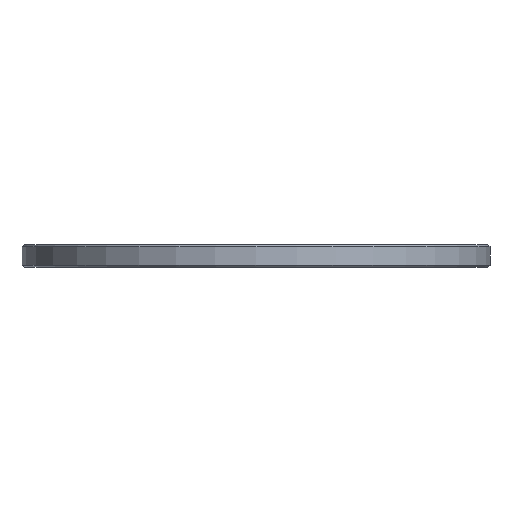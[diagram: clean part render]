
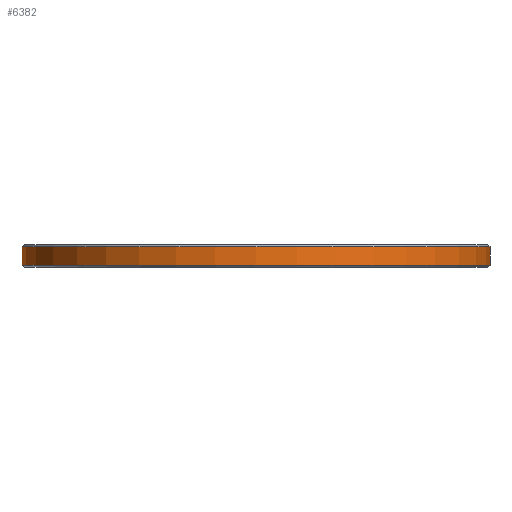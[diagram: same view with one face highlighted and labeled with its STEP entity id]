
A CAD part, front view. The second image highlights one B-rep face of the part: STEP entity #6382.
In plain terms, the highlighted cylindrical face has radius 32.812 mm (diameter 65.625 mm), a full revolution.
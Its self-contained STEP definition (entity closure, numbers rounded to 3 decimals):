
#71=CYLINDRICAL_SURFACE('',#6788,32.813);
#657=FACE_OUTER_BOUND('',#1028,.T.);
#1028=EDGE_LOOP('',(#5915,#5916,#5917,#5918));
#1118=CIRCLE('',#6787,32.813);
#1119=CIRCLE('',#6789,32.813);
#1923=LINE('',#10182,#2738);
#2738=VECTOR('',#8350,32.813);
#3324=VERTEX_POINT('',#10176);
#3325=VERTEX_POINT('',#10180);
#4190=EDGE_CURVE('',#3324,#3324,#1118,.T.);
#4192=EDGE_CURVE('',#3325,#3325,#1119,.T.);
#4193=EDGE_CURVE('',#3325,#3324,#1923,.T.);
#5915=ORIENTED_EDGE('',*,*,#4192,.F.);
#5916=ORIENTED_EDGE('',*,*,#4193,.T.);
#5917=ORIENTED_EDGE('',*,*,#4190,.F.);
#5918=ORIENTED_EDGE('',*,*,#4193,.F.);
#6382=ADVANCED_FACE('',(#657),#71,.T.);
#6787=AXIS2_PLACEMENT_3D('',#10177,#8343,#8344);
#6788=AXIS2_PLACEMENT_3D('',#10179,#8346,#8347);
#6789=AXIS2_PLACEMENT_3D('',#10181,#8348,#8349);
#8343=DIRECTION('center_axis',(0.,0.,-1.));
#8344=DIRECTION('ref_axis',(1.,0.,0.));
#8346=DIRECTION('center_axis',(0.,0.,1.));
#8347=DIRECTION('ref_axis',(1.,0.,0.));
#8348=DIRECTION('center_axis',(0.,0.,1.));
#8349=DIRECTION('ref_axis',(1.,0.,0.));
#8350=DIRECTION('',(0.,0.,-1.));
#10176=CARTESIAN_POINT('',(-32.813,0.,0.3));
#10177=CARTESIAN_POINT('Origin',(0.,0.,0.3));
#10179=CARTESIAN_POINT('Origin',(0.,0.,0.));
#10180=CARTESIAN_POINT('',(-32.813,0.,2.825));
#10181=CARTESIAN_POINT('Origin',(0.,0.,2.825));
#10182=CARTESIAN_POINT('',(-32.813,0.,0.));
